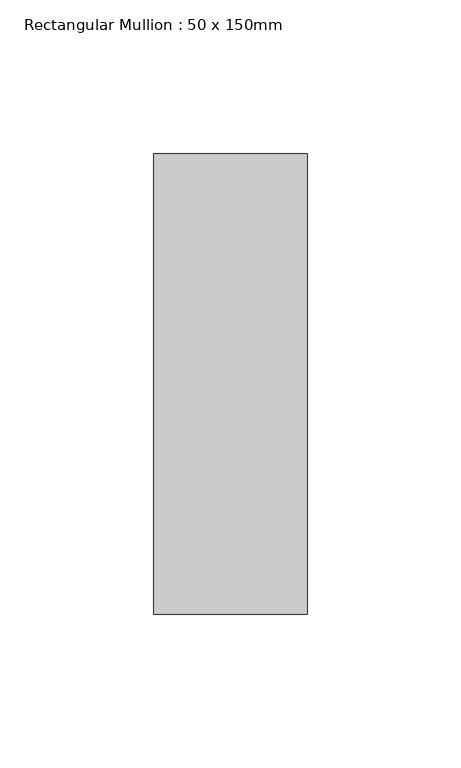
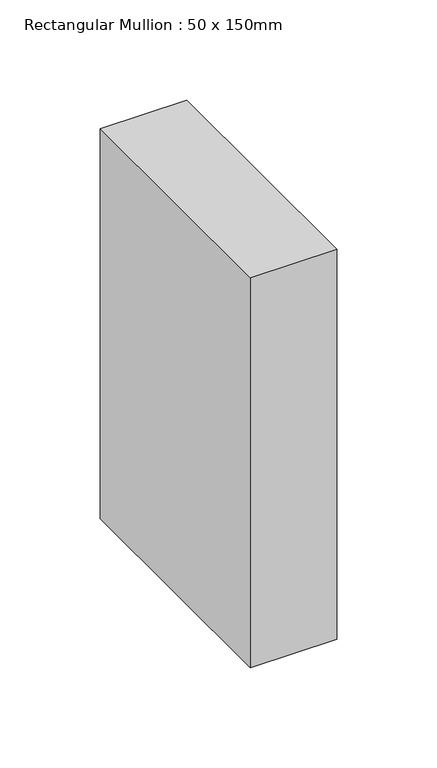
"""IFC4 building model written with IfcOpenShell, lengths in millimetres: member geometry, Rectangular Mullion : 50 x 150mm."""

from ifc_helpers import new_model, si_unit, frame, origin, place, context, project, spatial, polyline, outline, extrude, source, transform, mapped, element, save


def rectangular_mullion_50_x_150mm_259a080a(model_context):
    return source(origin(), model_context, "Body", "SweptSolid", [
        extrude(outline(polyline([(25.0, 75.0), (25.0, -75.0), (-25.0, -75.0), (-25.0, 75.0), (25.0, 75.0)])), frame((0.0, 0.0, -237.949962), z_axis=(0.0, 0.0, 1.0), x_axis=(1.0, 0.0, 0.0)), (0.0, 0.0, 1.0), 237.949962),
    ])


if __name__ == "__main__":
    model = new_model("IFC4")
    model_context = context("Model", 3, world=origin())
    ifc_project = project(units=[si_unit("LENGTHUNIT", "METRE", prefix="MILLI")], contexts=[model_context])
    site = spatial("IfcSite", under=ifc_project)
    building = spatial("IfcBuilding", under=site)
    placement = place(None, origin())
    rectangular_mullion_50_x_150mm_shape = rectangular_mullion_50_x_150mm_259a080a(model_context)
    element("IfcMember", 1, ObjectType="Rectangular Mullion : 50 x 150mm", at=placement, inside=building, context=model_context, shape_type="MappedRepresentation", body=[
        mapped(rectangular_mullion_50_x_150mm_shape, transform((0.0, 0.0, 0.0), x_axis=(1.0, 0.0, 0.0), y_axis=(0.0, 1.0, 0.0), z_axis=(0.0, 0.0, 1.0))),
    ])
    save(model, "model.ifc")
